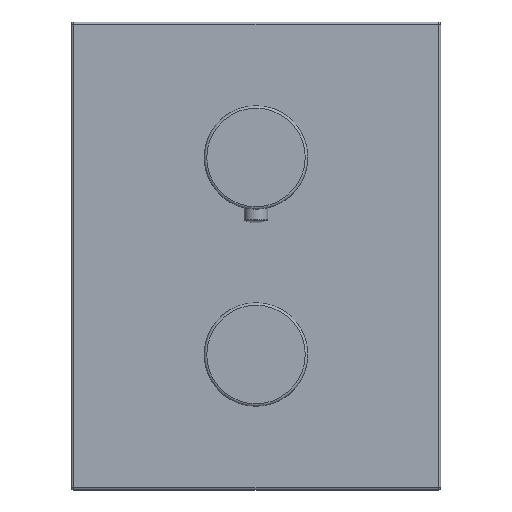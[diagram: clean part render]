
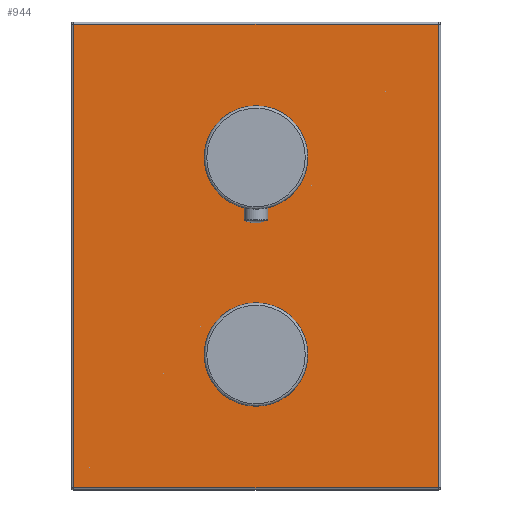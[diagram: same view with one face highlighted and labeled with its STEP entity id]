
A CAD part, front view. The second image highlights one B-rep face of the part: STEP entity #944.
In plain terms, the highlighted planar face has unit normal (0, -1, 0).
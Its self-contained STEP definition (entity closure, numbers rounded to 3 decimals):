
#300=PLANE('',#1494);
#338=FACE_OUTER_BOUND('',#389,.T.);
#389=EDGE_LOOP('',(#782,#783,#784,#785));
#481=LINE('',#2134,#518);
#488=LINE('',#2158,#525);
#493=LINE('',#2176,#530);
#498=LINE('',#2193,#535);
#518=VECTOR('',#1699,148.);
#525=VECTOR('',#1724,188.);
#530=VECTOR('',#1745,148.);
#535=VECTOR('',#1766,188.);
#555=VERTEX_POINT('',#2132);
#556=VERTEX_POINT('',#2133);
#564=VERTEX_POINT('',#2157);
#569=VERTEX_POINT('',#2175);
#617=EDGE_CURVE('',#555,#556,#481,.T.);
#629=EDGE_CURVE('',#556,#564,#488,.T.);
#638=EDGE_CURVE('',#564,#569,#493,.T.);
#647=EDGE_CURVE('',#569,#555,#498,.T.);
#782=ORIENTED_EDGE('',*,*,#617,.T.);
#783=ORIENTED_EDGE('',*,*,#629,.T.);
#784=ORIENTED_EDGE('',*,*,#638,.T.);
#785=ORIENTED_EDGE('',*,*,#647,.T.);
#944=ADVANCED_FACE('',(#338),#300,.T.);
#1494=AXIS2_PLACEMENT_3D('',#2204,#1783,#1784);
#1699=DIRECTION('',(0.,0.,1.));
#1724=DIRECTION('',(-1.,0.,0.));
#1745=DIRECTION('',(0.,0.,-1.));
#1766=DIRECTION('',(1.,0.,0.));
#1783=DIRECTION('center_axis',(0.,-1.,0.));
#1784=DIRECTION('ref_axis',(1.,0.,0.));
#2132=CARTESIAN_POINT('',(-72.735,-58.735,-2.));
#2133=CARTESIAN_POINT('',(-72.735,-58.735,146.));
#2134=CARTESIAN_POINT('',(-72.735,-58.735,-2.));
#2157=CARTESIAN_POINT('',(-260.735,-58.735,146.));
#2158=CARTESIAN_POINT('',(-72.735,-58.735,146.));
#2175=CARTESIAN_POINT('',(-260.735,-58.735,-2.));
#2176=CARTESIAN_POINT('',(-260.735,-58.735,146.));
#2193=CARTESIAN_POINT('',(-260.735,-58.735,-2.));
#2204=CARTESIAN_POINT('Origin',(-166.735,-58.735,72.));
